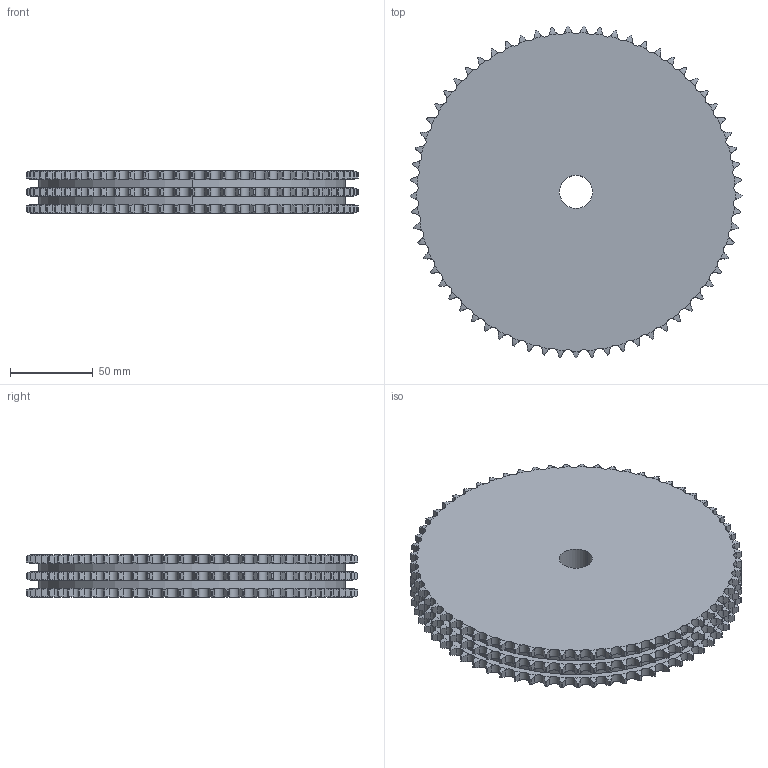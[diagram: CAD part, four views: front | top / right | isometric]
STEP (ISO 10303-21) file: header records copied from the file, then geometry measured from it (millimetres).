
FILE_DESCRIPTION((''),'2;1');
FILE_NAME('500-103-0065_PRT','2021-02-12T',('Brieden'),('Brieden'),'PRO/ENGINEER BY PARAMETRIC TECHNOLOGY CORPORATION, 2010160','PRO/ENGINEER BY PARAMETRIC TECHNOLOGY CORPORATION, 2010160','');
FILE_SCHEMA(('AUTOMOTIVE_DESIGN { 1 0 10303 214 1 1 1 1 }'));
Length unit declared in the file: millimetre
Products named in the file (1): 500-103-0065_PRT
Bounding box: 200.52 x 200.46 x 25.6 mm (x, y, z)
Volume: 723652.3 mm3; surface area: 90791.1 mm2
Topology: 1 solids, 1 shells, 1182 faces, 3528 edges, 2352 vertices
Faces by surface type: cylinder 786, torus 390, plane 6
Entity records: 57696 total; most frequent: CARTESIAN_POINT 17169, ORIENTED_EDGE 7056, DIRECTION 5514, PRESENTATION_STYLE_ASSIGNMENT 3529, STYLED_ITEM 3529, CURVE_STYLE 3528, EDGE_CURVE 3528, AXIS2_PLACEMENT_3D 2364
